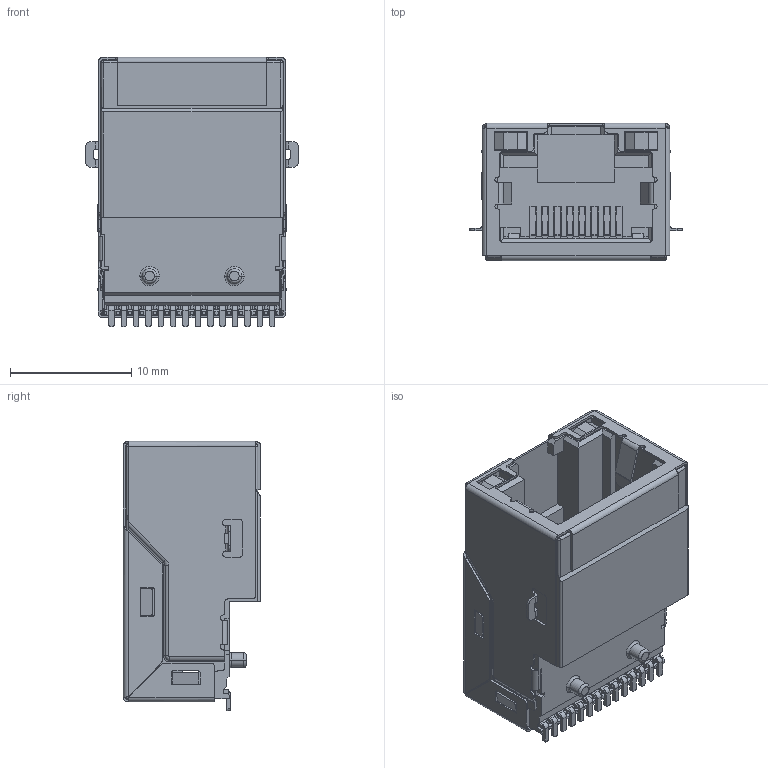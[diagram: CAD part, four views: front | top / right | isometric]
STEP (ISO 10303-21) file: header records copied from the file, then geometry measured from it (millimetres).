
FILE_DESCRIPTION((''),'2;1');
FILE_NAME('KRJ-CB329YGZENL','2022-07-21T10:15:22',('Administrator'),(''),'CREO PARAMETRIC BY PTC INC, 2018400','CREO PARAMETRIC BY PTC INC, 2018400','');
FILE_SCHEMA(('CONFIG_CONTROL_DESIGN'));
Length unit declared in the file: millimetre
Products named in the file (1): KRJ-CB329YGZENL
Bounding box: 17.6 x 11.35 x 22.22 mm (x, y, z)
Volume: 1467 mm3; surface area: 4953 mm2
Topology: 1 solids, 1 shells, 1445 faces, 4272 edges, 2764 vertices
Faces by surface type: plane 1092, cylinder 309, bspline 20, torus 18, sphere 4, extrusion 2
Entity records: 48480 total; most frequent: CARTESIAN_POINT 9575, ORIENTED_EDGE 8536, DIRECTION 7592, EDGE_CURVE 4268, VECTOR 3546, LINE 3544, VERTEX_POINT 2764, AXIS2_PLACEMENT_3D 2023
